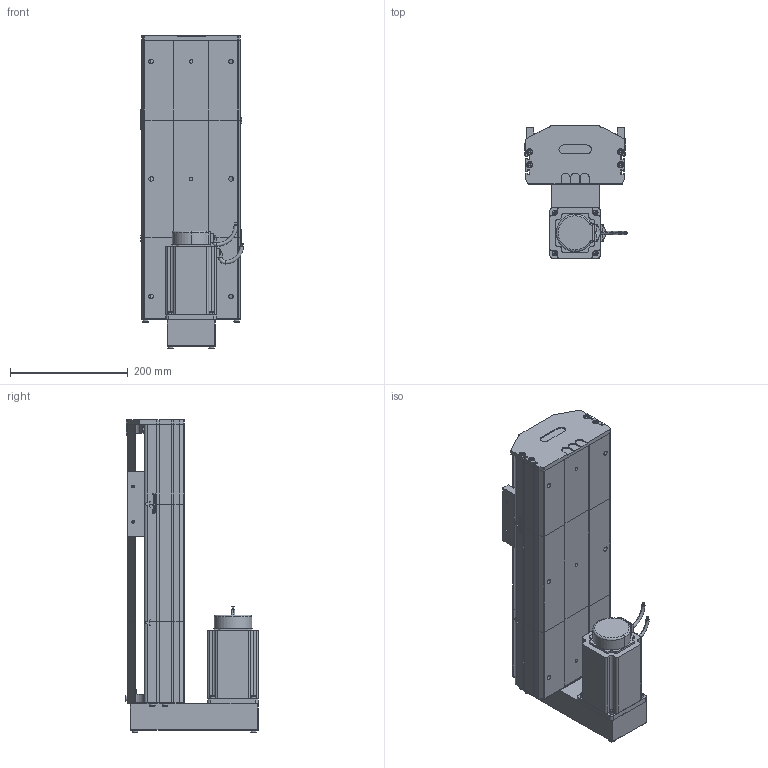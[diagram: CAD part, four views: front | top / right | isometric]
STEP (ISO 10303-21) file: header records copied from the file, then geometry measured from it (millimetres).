
FILE_DESCRIPTION (( 'STEP AP214' ), '1' );
FILE_NAME ('D17 TSN BM S200.STEP', '2010-06-30T07:26:08', ( 'Christophe Gaillard' ), ( 'SGA' ), 'SwSTEP 2.0', 'SolidWorks 2010', '' );
FILE_SCHEMA (( 'AUTOMOTIVE_DESIGN' ));
Length unit declared in the file: millimetre
Products named in the file (31): plaque de  bout tail D17_Default; head BM_Default; vis M5 L25_Default; vis M5 L8 90°_Default; corpl head D17 BM_Default; tete d''axe bas D17; couvercle D17_Default; Arbre+rail tail D17; tete d''axe haut D17; Chariot D17 TSN; Cvis M5 L70_Default; vis M5 L12_Default; renvoi Bm_Default; Vis M5 L16-2_Default; Conecteur_Default; Conecteur2_Default; codeur 90BLDC125-640; vis M5 L5_Default; Arbre+rail head D17; plaque de  bout BM head D17_Default; corps 90BLDC125A-640; avant 90BLDC125A-640; Moteur motionking 90BLDC125A-640; couvercle D17 head_Default; D17 TSN BM S200; corp D17 200_Default; arbre + rail D17 Course 200 ; course 200 D17_Default; corpl tail D17_Default; Tail D17_Default; couvercle D17 course L200_Default
Assembly tree (48 placements, depth 4):
  D17 TSN BM S200
    course 200 D17_Default
      arbre + rail D17 Course 200 
      couvercle D17 course L200_Default
      corp D17 200_Default
    Tail D17_Default
      vis M5 L25_Default  x2
      vis M5 L12_Default  x4
      corpl tail D17_Default
      couvercle D17_Default
      plaque de  bout tail D17_Default
      vis M5 L8 90°_Default  x2
      Arbre+rail tail D17
      tete d''axe bas D17
      tete d''axe haut D17
    Chariot D17 TSN
    head BM_Default
      vis M5 L12_Default  x8
      Cvis M5 L70_Default  x2
      corpl head D17 BM_Default
      Vis M5 L16-2_Default  x4
      couvercle D17 head_Default
      Moteur motionking 90BLDC125A-640
        corps 90BLDC125A-640
        codeur 90BLDC125-640
        Conecteur_Default
        avant 90BLDC125A-640
        Conecteur2_Default
      renvoi Bm_Default
      vis M5 L5_Default  x2
      plaque de  bout BM head D17_Default
      Arbre+rail head D17
Bounding box: 174.95 x 225.7 x 532.7 mm (x, y, z)
Volume: 4369557.9 mm3; surface area: 1047642.4 mm2
Topology: 73 solids, 73 shells, 1981 faces, 4963 edges, 3204 vertices
Faces by surface type: plane 1240, cylinder 480, bspline 136, torus 65, cone 56, sphere 4
Entity records: 67994 total; most frequent: CARTESIAN_POINT 21906, ORIENTED_EDGE 8134, DIRECTION 7574, EDGE_CURVE 4067, LINE 2858, VECTOR 2858, VERTEX_POINT 2670, AXIS2_PLACEMENT_3D 2358
